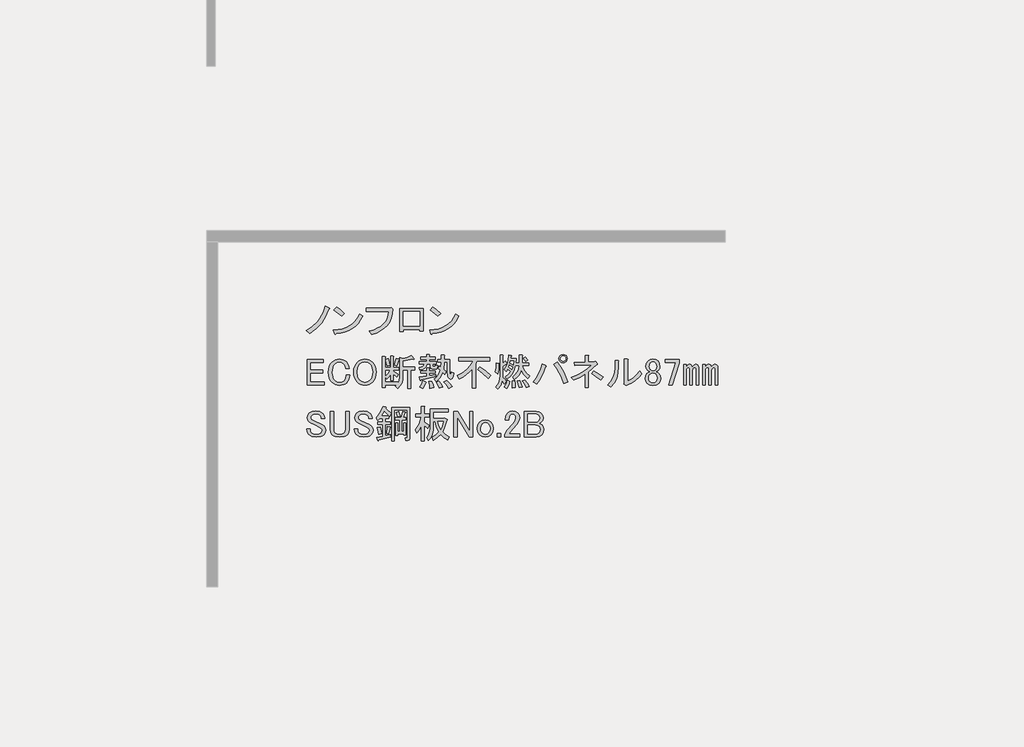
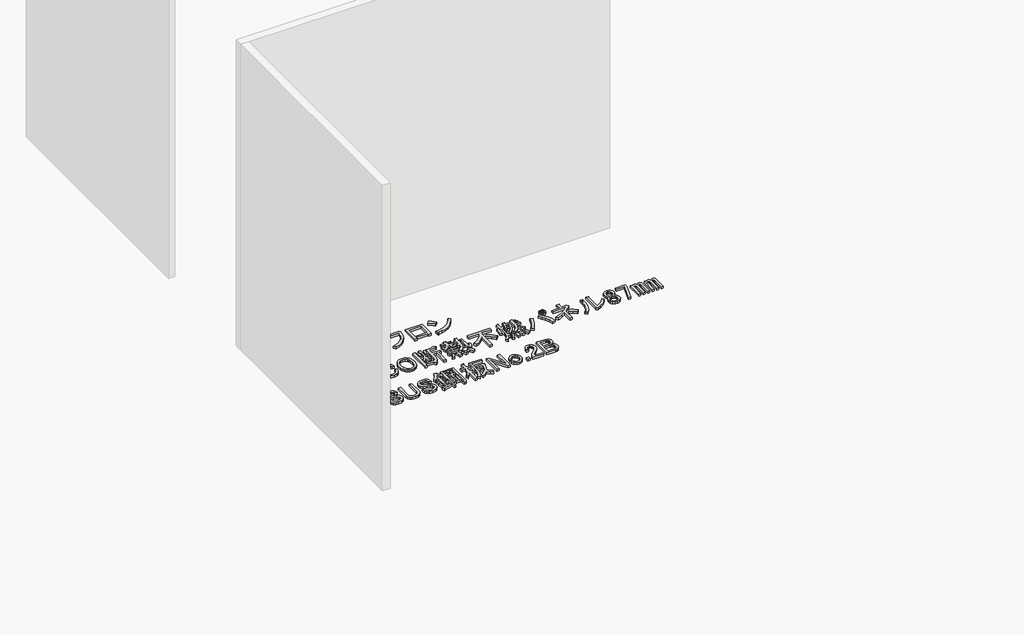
# One storey, part 59 of 117: 1 proxy.
"""IFC4 building model written with IfcOpenShell, lengths in millimetres."""

from ifc_helpers import new_model, si_unit, frame, origin, place, context, project, spatial, polyline, outline, extrude, element, save

model = new_model("IFC4")

# Units and contexts
model_context = context("Model", 3, world=origin())
ifc_project = project(units=[si_unit("LENGTHUNIT", "METRE", prefix="MILLI")], contexts=[model_context])

# Site, building, storey
site = spatial("IfcSite", under=ifc_project)
building = spatial("IfcBuilding", under=site)
storey = spatial("IfcBuildingStorey", under=building, Name="レベル 1", Elevation=500.0)

# Proxy
placement = place(None, origin())
element("IfcBuildingElementProxy", 1, Name="200㎜\u3000MS Pゴシック", ObjectType="200㎜\u3000MS Pゴシック", at=placement, inside=storey, context=model_context, shape_type="SweptSolid", body=[
    extrude(outline(polyline([(40940.1706985, -603.5496882), (40914.5952502, -663.3215225), (40886.146156, -709.2998566), (40844.4782907, -754.7034615), (40795.3389462, -792.060858), (40767.7519457, -770.2211493), (40815.4544673, -739.7605029), (40855.1107805, -701.2536481), (40872.4963381, -677.3305462), (40887.8703435, -649.2406577), (40901.2327969, -616.9839827), (40912.5836981, -580.5605212), (40943.6190736, -594.3540214), (40946.7800841, -598.9518548), (40940.1706985, -603.5496882)])), frame((0.0, 0.0, 500.0), z_axis=(0.0, 0.0, 1.0), x_axis=(1.0, 0.0, 0.0)), (0.0, 0.0, 1.0), 25.0),
    extrude(outline(polyline([(41039.8977052, -658.7236891), (40981.2753292, -611.5958967), (41000.8161212, -587.4572713), (41028.1157571, -607.2854279), (41061.7374138, -636.8839804), (41039.8977052, -658.7236891)])), frame((0.0, 0.0, 500.0), z_axis=(0.0, 0.0, 1.0), x_axis=(1.0, 0.0, 0.0)), (0.0, 0.0, 1.0), 25.0),
    extrude(outline(polyline([(41201.9713328, -658.7236891), (41185.447869, -688.465924), (41166.3381239, -714.4724192), (41144.6420975, -736.7431748), (41120.3597898, -755.2781907), (41093.4912008, -770.077467), (41064.0363306, -781.1410036), (41031.995179, -788.4688006), (40997.3677461, -792.060858), (40991.6204544, -800.1070664), (40985.8731626, -794.3597747), (40976.6774958, -764.4738575), (41012.5082679, -761.7977748), (41045.2857912, -755.4937141), (41075.0100658, -745.5616756), (41101.6810916, -732.0016591), (41125.2988687, -714.8136646), (41145.863397, -693.9976923), (41163.3746766, -669.553742), (41177.8327074, -641.4818138), (41201.9713328, -658.7236891)])), frame((0.0, 0.0, 500.0), z_axis=(0.0, 0.0, 1.0), x_axis=(1.0, 0.0, 0.0)), (0.0, 0.0, 1.0), 25.0),
    extrude(outline(polyline([(41252.7314136, -773.6695243), (41286.514713, -763.9889298), (41316.0234641, -751.6142922), (41341.257667, -736.5456116), (41362.2173217, -718.782888), (41378.902428, -698.3261214), (41391.3129862, -675.1753118), (41399.4489961, -649.3304591), (41403.3104577, -620.7915635), (41230.8917049, -620.7915635), (41230.8917049, -595.5034798), (41405.6093744, -595.5034798), (41421.7017914, -592.0551047), (41434.3458332, -603.5496882), (41430.825617, -640.0449909), (41422.5638851, -673.0919185), (41409.5606375, -702.6904711), (41391.8158742, -728.8406486), (41369.3295952, -751.542451), (41342.1018005, -770.7958784), (41310.1324901, -786.6009308), (41273.421664, -798.9576081), (41252.7314136, -773.6695243)])), frame((0.0, 0.0, 500.0), z_axis=(0.0, 0.0, 1.0), x_axis=(1.0, 0.0, 0.0)), (0.0, 0.0, 1.0), 25.0),
    extrude(outline(polyline([(41667.455987, -772.520066), (41641.0184449, -772.520066), (41641.0184449, -759.8760241), (41513.4285679, -759.8760241), (41513.4285679, -778.2673577), (41486.9910258, -778.2673577), (41486.9910258, -598.9518548), (41667.455987, -598.9518548), (41667.455987, -772.520066)]), holes=[polyline([(41513.4285679, -624.2399386), (41513.4285679, -734.5879404), (41641.0184449, -734.5879404), (41641.0184449, -624.2399386), (41513.4285679, -624.2399386)])]), frame((0.0, 0.0, 500.0), z_axis=(0.0, 0.0, 1.0), x_axis=(1.0, 0.0, 0.0)), (0.0, 0.0, 1.0), 25.0),
    extrude(outline(polyline([(41943.5099049, -658.7236891), (41926.9864411, -688.465924), (41907.876696, -714.4724192), (41886.1806696, -736.7431748), (41861.8983619, -755.2781907), (41835.0297729, -770.077467), (41805.5749026, -781.1410036), (41773.5337511, -788.4688006), (41738.9063182, -792.060858), (41733.1590264, -800.1070664), (41727.4117347, -794.3597747), (41718.2160679, -764.4738575), (41754.0468399, -761.7977748), (41786.8243633, -755.4937141), (41816.5486378, -745.5616756), (41843.2196637, -732.0016591), (41866.8374407, -714.8136646), (41887.4019691, -693.9976923), (41904.9132486, -669.553742), (41919.3712795, -641.4818138), (41943.5099049, -658.7236891)])), frame((0.0, 0.0, 500.0), z_axis=(0.0, 0.0, 1.0), x_axis=(1.0, 0.0, 0.0)), (0.0, 0.0, 1.0), 25.0),
    extrude(outline(polyline([(41781.4362772, -658.7236891), (41722.8139013, -611.5958967), (41742.3546933, -587.4572713), (41769.6543291, -607.2854279), (41803.2759859, -636.8839804), (41781.4362772, -658.7236891)])), frame((0.0, 0.0, 500.0), z_axis=(0.0, 0.0, 1.0), x_axis=(1.0, 0.0, 0.0)), (0.0, 0.0, 1.0), 25.0),
    extrude(outline(polyline([(40773.4992375, -992.0551047), (40899.9396562, -992.0551047), (40899.9396562, -1013.8948134), (40799.9367796, -1013.8948134), (40799.9367796, -1074.816106), (40893.0429061, -1074.816106), (40893.0429061, -1096.6558147), (40799.9367796, -1096.6558147), (40799.9367796, -1166.7727742), (40905.686948, -1166.7727742), (40905.686948, -1188.6124829), (40773.4992375, -1188.6124829), (40773.4992375, -992.0551047)])), frame((0.0, 0.0, 500.0), z_axis=(0.0, 0.0, 1.0), x_axis=(1.0, 0.0, 0.0)), (0.0, 0.0, 1.0), 25.0),
    extrude(outline(polyline([(40937.7798252, -1090.908523), (40939.5758538, -1066.985421), (40944.9639399, -1045.7922827), (40953.9440832, -1027.3291079), (40966.516284, -1011.5958967), (40991.5170031, -995.2161152), (41022.8397432, -989.756188), (41053.5877541, -994.641386), (41076.8642858, -1009.29698), (41092.6693381, -1032.8608762), (41098.7039944, -1062.1720642), (41071.116994, -1062.1720642), (41066.231796, -1040.9070847), (41056.1740354, -1025.3893969), (41040.9437123, -1015.0442717), (41022.8397432, -1011.5958967), (41003.2989512, -1015.6190009), (40986.0570759, -1027.6883136), (40977.0050914, -1039.3984206), (40970.5393882, -1053.8384911), (40965.3668256, -1090.908523), (40970.5393882, -1127.9785548), (40977.0050914, -1142.4186254), (40986.0570759, -1154.1287323), (41002.7242221, -1165.3359513), (41022.8397432, -1169.0716909), (41043.242629, -1165.9106804), (41058.4729521, -1156.427649), (41070.5422648, -1136.8868571), (41074.5653691, -1110.449315), (41102.1523695, -1110.449315), (41095.8303486, -1145.2204301), (41088.7899162, -1159.3731361), (41079.1632025, -1171.3706076), (41068.3151893, -1179.9197041), (41055.3119417, -1186.0262016), (41022.8397432, -1190.9113996), (40991.5170031, -1185.4514724), (40966.516284, -1169.0716909), (40953.9440832, -1153.4103209), (40944.9639399, -1135.1626695), (40939.5758538, -1114.3287369), (40937.7798252, -1090.908523)])), frame((0.0, 0.0, 500.0), z_axis=(0.0, 0.0, 1.0), x_axis=(1.0, 0.0, 0.0)), (0.0, 0.0, 1.0), 25.0),
    extrude(outline(polyline([(41133.1417667, -1089.7590646), (41134.8659542, -1066.9135799), (41140.0385168, -1046.6543764), (41148.6594544, -1028.9814543), (41160.7287671, -1013.8948134), (41173.4446501, -1003.3341648), (41187.4536738, -995.7908443), (41202.7558381, -991.2648521), (41219.3511431, -989.756188), (41235.946448, -991.2648521), (41251.2486123, -995.7908443), (41265.257636, -1003.3341648), (41277.973519, -1013.8948134), (41290.0428317, -1028.9814543), (41298.6637694, -1046.6543764), (41303.836332, -1066.9135799), (41305.5605195, -1089.7590646), (41303.836332, -1112.6045494), (41298.6637694, -1132.8637528), (41290.0428317, -1150.536675), (41277.973519, -1165.6233159), (41265.257636, -1176.1839645), (41251.2486123, -1183.7272849), (41235.946448, -1188.2532772), (41219.3511431, -1189.7619413), (41202.7558381, -1188.2532772), (41187.4536738, -1183.7272849), (41173.4446501, -1176.1839645), (41160.7287671, -1165.6233159), (41148.6594544, -1150.536675), (41140.0385168, -1132.8637528), (41134.8659542, -1112.6045494), (41133.1417667, -1089.7590646)]), holes=[polyline([(41219.3511431, -1011.5958967), (41198.6608927, -1015.9063655), (41180.2695591, -1028.837772), (41171.7204626, -1039.9731498), (41165.6139651, -1053.8384911), (41160.7287671, -1089.7590646), (41165.6139651, -1125.6796381), (41171.7204626, -1139.5449795), (41180.2695591, -1150.6803573), (41198.6608927, -1163.6117637), (41219.3511431, -1167.9222326), (41240.0413934, -1163.6117637), (41258.432727, -1150.6803573), (41266.9818235, -1139.5449795), (41273.088321, -1125.6796381), (41277.973519, -1089.7590646), (41273.088321, -1053.8384911), (41266.9818235, -1039.9731498), (41258.432727, -1028.837772), (41240.0413934, -1015.9063655), (41219.3511431, -1011.5958967)])]), frame((0.0, 0.0, 500.0), z_axis=(0.0, 0.0, 1.0), x_axis=(1.0, 0.0, 0.0)), (0.0, 0.0, 1.0), 25.0),
    extrude(outline(polyline([(41444.3691101, -1035.7345221), (41461.6109854, -982.8594379), (41482.3012357, -988.6067296), (41484.0254232, -991.7677401), (41480.002319, -994.3540214), (41462.7604437, -1042.6312722), (41444.3691101, -1035.7345221)])), frame((0.0, 0.0, 500.0), z_axis=(0.0, 0.0, 1.0), x_axis=(1.0, 0.0, 0.0)), (0.0, 0.0, 1.0), 25.0),
    extrude(outline(polyline([(41598.3965292, -987.4572713), (41596.6723417, -992.0551047), (41589.2008624, -989.756188), (41512.1871528, -1002.4002299), (41512.1871528, -1051.826939), (41604.143821, -1051.826939), (41604.143821, -1073.6666477), (41573.1084455, -1073.6666477), (41573.1084455, -1213.9005666), (41550.1192785, -1213.9005666), (41550.1192785, -1073.6666477), (41512.1871528, -1073.6666477), (41512.1871528, -1123.0933568), (41509.6008716, -1150.8958807), (41501.8420277, -1175.6810764), (41488.9106212, -1197.448944), (41470.8066522, -1216.1994833), (41453.5647769, -1196.6586914), (41463.9099021, -1187.4630245), (41374.2521506, -1187.4630245), (41374.2521506, -1209.3027332), (41351.2629836, -1209.3027332), (41351.2629836, -970.215396), (41373.1026922, -970.215396), (41377.9878902, -972.5143127), (41374.2521506, -977.1121461), (41374.2521506, -1052.9763974), (41416.7821096, -1052.9763974), (41416.7821096, -965.6175626), (41435.1734433, -965.6175626), (41440.0586413, -967.9164793), (41436.3229016, -972.5143127), (41436.3229016, -1052.9763974), (41480.002319, -1052.9763974), (41480.002319, -1071.367731), (41436.3229016, -1071.367731), (41436.3229016, -1080.5633978), (41476.5539439, -1107.0009399), (41462.7604437, -1128.8406486), (41436.3229016, -1102.4031065), (41436.3229016, -1155.2781907), (41416.7821096, -1155.2781907), (41416.7821096, -1107.0009399), (41403.5633386, -1126.8290965), (41389.1951092, -1142.6341488), (41376.5510673, -1124.2428152), (41398.390776, -1100.1041898), (41415.6326513, -1071.367731), (41374.2521506, -1071.367731), (41374.2521506, -1165.6233159), (41471.9561105, -1165.6233159), (41471.9561105, -1179.4168161), (41484.887517, -1155.2781907), (41489.1979858, -1121.9438985), (41489.1979858, -977.1121461), (41511.0376945, -982.8594379), (41547.2456326, -975.3879586), (41577.7062789, -962.1691875), (41598.3965292, -987.4572713)])), frame((0.0, 0.0, 500.0), z_axis=(0.0, 0.0, 1.0), x_axis=(1.0, 0.0, 0.0)), (0.0, 0.0, 1.0), 25.0),
    extrude(outline(polyline([(41390.3445675, -1043.7807305), (41377.7005257, -993.2045631), (41397.2413176, -986.3078129), (41405.0001615, -1010.4464383), (41409.8853595, -1036.8839804), (41390.3445675, -1043.7807305)])), frame((0.0, 0.0, 500.0), z_axis=(0.0, 0.0, 1.0), x_axis=(1.0, 0.0, 0.0)), (0.0, 0.0, 1.0), 25.0),
    extrude(outline(polyline([(41734.0326148, -1159.8760241), (41744.0903754, -1187.17566), (41748.9755734, -1209.3027332), (41720.2391146, -1215.050025), (41717.6528333, -1193.4976809), (41709.8939894, -1163.3243992), (41734.0326148, -1159.8760241)])), frame((0.0, 0.0, 500.0), z_axis=(0.0, 0.0, 1.0), x_axis=(1.0, 0.0, 0.0)), (0.0, 0.0, 1.0), 25.0),
    extrude(outline(polyline([(41790.356074, -1212.7511083), (41782.022501, -1188.0377537), (41768.5163654, -1166.7727742), (41789.2066157, -1158.7265657), (41806.1611264, -1180.2789098), (41817.9430745, -1203.5554415), (41790.356074, -1212.7511083)])), frame((0.0, 0.0, 500.0), z_axis=(0.0, 0.0, 1.0), x_axis=(1.0, 0.0, 0.0)), (0.0, 0.0, 1.0), 25.0),
    extrude(outline(polyline([(41689.2037391, -1164.4738575), (41692.6521141, -1169.3590555), (41686.9048224, -1172.520066), (41677.1344264, -1198.0955143), (41666.214572, -1217.3489417), (41643.225405, -1205.8543582), (41655.8694469, -1182.290462), (41666.214572, -1155.2781907), (41689.2037391, -1164.4738575)])), frame((0.0, 0.0, 500.0), z_axis=(0.0, 0.0, 1.0), x_axis=(1.0, 0.0, 0.0)), (0.0, 0.0, 1.0), 25.0),
    extrude(outline(polyline([(41721.3885729, -1027.6883136), (41696.1004892, -1027.6883136), (41691.5026558, -1045.1457123), (41681.1575306, -1058.4363245), (41665.0651137, -1067.5601502), (41643.225405, -1072.5171893), (41638.6275716, -1052.9763974), (41663.9156553, -1044.3554597), (41671.3871346, -1037.0276627), (41675.4102388, -1027.6883136), (41639.7770299, -1027.6883136), (41639.7770299, -1009.29698), (41693.8015725, -1009.29698), (41693.8015725, -992.0551047), (41650.1221551, -992.0551047), (41650.1221551, -973.6637711), (41693.8015725, -973.6637711), (41693.8015725, -955.2724374), (41715.6412812, -955.2724374), (41720.5264792, -957.5713541), (41716.7907395, -962.1691875), (41716.7907395, -973.6637711), (41759.3206985, -973.6637711), (41759.3206985, -992.0551047), (41716.7907395, -992.0551047), (41716.7907395, -1009.29698), (41769.6658237, -1009.29698), (41769.6658237, -1027.6883136), (41740.9293649, -1027.6883136), (41740.9293649, -1040.3323555), (41742.3661878, -1045.5049181), (41746.6766567, -1047.2291056), (41757.0217818, -1047.2291056), (41760.7575215, -1044.0680951), (41760.4701569, -1034.5850637), (41780.0109489, -1036.8839804), (41777.137303, -1058.4363245), (41771.8210581, -1063.8244106), (41763.9185319, -1065.6204392), (41739.7799066, -1065.6204392), (41725.9864063, -1060.7352412), (41721.3885729, -1046.0796472), (41721.3885729, -1027.6883136)])), frame((0.0, 0.0, 500.0), z_axis=(0.0, 0.0, 1.0), x_axis=(1.0, 0.0, 0.0)), (0.0, 0.0, 1.0), 25.0),
    extrude(outline(polyline([(41852.4268251, -1010.4464383), (41830.5871164, -1010.4464383), (41825.989283, -1067.9193559), (41845.5300749, -1086.3106896), (41835.1849498, -1108.1503983), (41819.0925328, -1092.0579813), (41799.8391054, -1129.7027424), (41769.6658237, -1162.1749408), (41752.4239484, -1141.4846905), (41767.5105893, -1129.5590601), (41780.585678, -1114.4724192), (41791.6492147, -1096.2247679), (41800.7011992, -1074.816106), (41783.4593239, -1059.8731475), (41791.5055324, -1042.6312722), (41805.2990326, -1052.9763974), (41807.5979493, -1010.4464383), (41780.0109489, -1010.4464383), (41780.0109489, -992.0551047), (41807.5979493, -992.0551047), (41807.5979493, -957.5713541), (41829.437658, -957.5713541), (41834.322856, -959.8702708), (41830.5871164, -964.4681043), (41830.5871164, -992.0551047), (41871.967617, -992.0551047), (41871.967617, -1088.6096063), (41875.4159921, -1112.7482317), (41878.6488437, -1114.7597838), (41881.4506484, -1111.5987733), (41885.7611173, -1089.7590646), (41905.3019092, -1096.6558147), (41900.775917, -1123.4525626), (41892.945232, -1139.4731384), (41881.8098542, -1144.7175421), (41867.3697836, -1139.1857738), (41860.8322393, -1131.8579768), (41856.1625647, -1120.219711), (41852.4268251, -1084.0117729), (41852.4268251, -1010.4464383)])), frame((0.0, 0.0, 500.0), z_axis=(0.0, 0.0, 1.0), x_axis=(1.0, 0.0, 0.0)), (0.0, 0.0, 1.0), 25.0),
    extrude(outline(polyline([(41651.2716134, -1149.5308989), (41649.2600613, -1154.4160969), (41645.5243217, -1152.979274), (41639.7770299, -1128.8406486), (41694.9510308, -1120.7944401), (41694.9510308, -1097.8052731), (41651.2716134, -1097.8052731), (41651.2716134, -1079.4139395), (41694.9510308, -1079.4139395), (41694.9510308, -1056.4247724), (41713.3423645, -1056.4247724), (41718.2275625, -1058.7236891), (41714.4918228, -1063.3215225), (41714.4918228, -1079.4139395), (41759.3206985, -1079.4139395), (41759.3206985, -1097.8052731), (41714.4918228, -1097.8052731), (41714.4918228, -1117.3460651), (41765.0679903, -1108.1503983), (41765.0679903, -1124.2428152), (41651.2716134, -1149.5308989)])), frame((0.0, 0.0, 500.0), z_axis=(0.0, 0.0, 1.0), x_axis=(1.0, 0.0, 0.0)), (0.0, 0.0, 1.0), 25.0),
    extrude(outline(polyline([(41848.97845, -1154.1287323), (41873.6918046, -1175.3937119), (41892.6578674, -1200.1070664), (41866.2203253, -1215.050025), (41846.9668979, -1185.4514724), (41828.2881997, -1165.6233159), (41848.97845, -1154.1287323)])), frame((0.0, 0.0, 500.0), z_axis=(0.0, 0.0, 1.0), x_axis=(1.0, 0.0, 0.0)), (0.0, 0.0, 1.0), 25.0),
    extrude(outline(polyline([(42167.3784135, -1138.0363154), (42128.2968295, -1099.8168252), (42086.9163289, -1070.2182726), (42103.0087458, -1049.5280223), (42146.6881632, -1077.6897519), (42188.0686638, -1116.1966067), (42167.3784135, -1138.0363154)])), frame((0.0, 0.0, 500.0), z_axis=(0.0, 0.0, 1.0), x_axis=(1.0, 0.0, 0.0)), (0.0, 0.0, 1.0), 25.0),
    extrude(outline(polyline([(41940.9351182, -977.1121461), (42182.3213721, -977.1121461), (42182.3213721, -1002.4002299), (42082.3184955, -1002.4002299), (42071.9733703, -1026.5388553), (42071.9733703, -1212.7511083), (42045.5358282, -1212.7511083), (42045.5358282, -1065.6204392), (42024.7018956, -1088.8969709), (42001.2816816, -1109.2998566), (41975.2751864, -1126.8290965), (41946.6824099, -1141.4846905), (41930.589993, -1115.0471484), (41970.174465, -1094.6442626), (42003.8679629, -1069.0688143), (42031.6704868, -1038.3208034), (42053.5820367, -1002.4002299), (41940.9351182, -1002.4002299), (41940.9351182, -977.1121461)])), frame((0.0, 0.0, 500.0), z_axis=(0.0, 0.0, 1.0), x_axis=(1.0, 0.0, 0.0)), (0.0, 0.0, 1.0), 25.0),
    extrude(outline(polyline([(42354.7401249, -1211.6016499), (42355.3148541, -1184.5893787), (42352.4412082, -1156.427649), (42371.9820002, -1155.2781907), (42378.3040211, -1181.4283682), (42378.8787503, -1209.3027332), (42354.7401249, -1211.6016499)])), frame((0.0, 0.0, 500.0), z_axis=(0.0, 0.0, 1.0), x_axis=(1.0, 0.0, 0.0)), (0.0, 0.0, 1.0), 25.0),
    extrude(outline(polyline([(42335.1993329, -1159.8760241), (42326.5783953, -1190.3366704), (42312.2101659, -1217.3489417), (42292.6693739, -1204.7048998), (42306.7502387, -1179.9915453), (42316.8079993, -1151.8298156), (42335.1993329, -1159.8760241)])), frame((0.0, 0.0, 500.0), z_axis=(0.0, 0.0, 1.0), x_axis=(1.0, 0.0, 0.0)), (0.0, 0.0, 1.0), 25.0),
    extrude(outline(polyline([(42250.1394149, -1021.9410219), (42254.7372483, -1024.2399386), (42250.1394149, -1028.837772), (42248.9899565, -1068.4940851), (42243.2426647, -1102.4031065), (42224.8513311, -1089.7590646), (42230.5986229, -1055.2753141), (42231.7480812, -1018.4926468), (42250.1394149, -1021.9410219)])), frame((0.0, 0.0, 500.0), z_axis=(0.0, 0.0, 1.0), x_axis=(1.0, 0.0, 0.0)), (0.0, 0.0, 1.0), 25.0),
    extrude(outline(polyline([(42301.8650407, -1003.5496882), (42311.0607075, -1020.7915635), (42312.4975305, -1026.8262199), (42307.6123325, -1026.5388553), (42281.1747904, -1047.2291056), (42281.1747904, -1131.1395653), (42294.9682906, -1143.4962426), (42306.4628741, -1159.8760241), (42293.8188322, -1180.5662744), (42275.4274986, -1155.2781907), (42263.6455505, -1191.1987642), (42242.0932064, -1220.7973168), (42227.1502478, -1202.4059831), (42242.2368887, -1183.6554438), (42253.0130607, -1163.0370346), (42259.478764, -1140.5507556), (42261.6339984, -1116.1966067), (42261.6339984, -958.7208125), (42280.025332, -958.7208125), (42284.91053, -961.0197292), (42281.1747904, -965.6175626), (42281.1747904, -1024.2399386), (42301.8650407, -1003.5496882)])), frame((0.0, 0.0, 500.0), z_axis=(0.0, 0.0, 1.0), x_axis=(1.0, 0.0, 0.0)), (0.0, 0.0, 1.0), 25.0),
    extrude(outline(polyline([(42452.4440848, -972.5143127), (42474.2837935, -996.6529381), (42457.0419182, -1008.1475216), (42450.4325327, -996.6529381), (42437.5011262, -982.8594379), (42452.4440848, -972.5143127)])), frame((0.0, 0.0, 500.0), z_axis=(0.0, 0.0, 1.0), x_axis=(1.0, 0.0, 0.0)), (0.0, 0.0, 1.0), 25.0),
    extrude(outline(polyline([(42462.78921, -1209.3027332), (42449.5704389, -1181.1410036), (42432.9032928, -1156.427649), (42451.2946265, -1148.3814406), (42470.2606893, -1171.3706076), (42485.778377, -1198.9576081), (42462.78921, -1209.3027332)])), frame((0.0, 0.0, 500.0), z_axis=(0.0, 0.0, 1.0), x_axis=(1.0, 0.0, 0.0)), (0.0, 0.0, 1.0), 25.0),
    extrude(outline(polyline([(42413.3625008, -1154.1287323), (42431.7538345, -1203.5554415), (42407.6152091, -1208.1532749), (42393.8217089, -1157.5771074), (42413.3625008, -1154.1287323)])), frame((0.0, 0.0, 500.0), z_axis=(0.0, 0.0, 1.0), x_axis=(1.0, 0.0, 0.0)), (0.0, 0.0, 1.0), 25.0),
    extrude(outline(polyline([(42474.2837935, -1139.1857738), (42443.5357826, -1108.7251274), (42422.5581677, -1074.816106), (42414.1527535, -1096.9431793), (42402.7300111, -1116.1966067), (42388.2899405, -1132.5763882), (42370.8325418, -1146.0825239), (42357.0390416, -1127.6911902), (42377.8729742, -1108.7969686), (42393.2469797, -1087.7475125), (42403.161058, -1064.542822), (42407.6152091, -1039.1828971), (42378.8787503, -1039.1828971), (42370.904383, -1069.7872258), (42357.3264062, -1097.2305439), (42338.1448199, -1121.5128516), (42313.3596242, -1142.6341488), (42300.7155823, -1126.5417319), (42326.5783953, -1104.9893878), (42342.096083, -1084.0117729), (42320.2563743, -1064.4709809), (42306.4628741, -1085.1612312), (42292.6693739, -1070.2182726), (42305.0978923, -1051.1803687), (42314.7964472, -1026.2514907), (42321.7650384, -995.4316386), (42326.0036661, -958.7208125), (42346.6939164, -961.0197292), (42350.1422915, -963.6060105), (42344.3949997, -966.767021), (42342.096083, -985.1583546), (42385.7755004, -985.1583546), (42382.3271253, -1020.7915635), (42407.6152091, -1020.7915635), (42407.6152091, -958.7208125), (42429.4549178, -958.7208125), (42434.3401158, -961.0197292), (42430.6043761, -965.6175626), (42430.6043761, -1020.7915635), (42480.0310853, -1020.7915635), (42480.0310853, -1039.1828971), (42430.6043761, -1039.1828971), (42437.1419205, -1060.9507647), (42448.7083452, -1081.4254916), (42465.3036501, -1100.6070778), (42486.9278354, -1118.4955234), (42474.2837935, -1139.1857738)]), holes=[polyline([(42350.1422915, -1069.0688143), (42357.0390416, -1049.5280223), (42331.7509579, -1033.4356054), (42326.0036661, -1050.6774807), (42350.1422915, -1069.0688143)]), polyline([(42339.7971663, -1003.5496882), (42336.3487913, -1019.6421052), (42361.636875, -1033.4356054), (42366.2347084, -1003.5496882), (42339.7971663, -1003.5496882)])]), frame((0.0, 0.0, 500.0), z_axis=(0.0, 0.0, 1.0), x_axis=(1.0, 0.0, 0.0)), (0.0, 0.0, 1.0), 25.0),
    extrude(outline(polyline([(42699.5776305, -1012.745355), (42726.230696, -1049.4561812), (42748.7169751, -1087.1727833), (42767.0364675, -1125.8951616), (42781.1891735, -1165.6233159), (42750.153798, -1175.968441), (42734.7079514, -1132.8637528), (42717.1068704, -1094.356898), (42697.350555, -1060.4478766), (42675.4390051, -1031.1366887), (42699.5776305, -1012.745355)])), frame((0.0, 0.0, 500.0), z_axis=(0.0, 0.0, 1.0), x_axis=(1.0, 0.0, 0.0)), (0.0, 0.0, 1.0), 25.0),
    extrude(outline(polyline([(42612.2187958, -1039.1828971), (42616.2419, -1044.6428243), (42609.919879, -1049.5280223), (42597.9942486, -1084.9457078), (42582.9076078, -1118.782888), (42564.6599564, -1151.039563), (42543.2512946, -1181.7157328), (42516.8137525, -1164.4738575), (42540.018443, -1133.0074351), (42559.056347, -1099.5294606), (42573.9274644, -1064.039934), (42584.6317953, -1026.5388553), (42612.2187958, -1039.1828971)])), frame((0.0, 0.0, 500.0), z_axis=(0.0, 0.0, 1.0), x_axis=(1.0, 0.0, 0.0)), (0.0, 0.0, 1.0), 25.0),
    extrude(outline(polyline([(42745.5559646, -1018.4926468), (42732.9119227, -1016.1937301), (42722.5667975, -1009.29698), (42715.6700474, -998.9518548), (42713.3711307, -986.3078129), (42715.6700474, -973.6637711), (42722.5667975, -963.3186459), (42732.9119227, -956.4218958), (42745.5559646, -954.1229791), (42758.2000065, -956.4218958), (42768.5451316, -963.3186459), (42775.4418817, -973.6637711), (42777.7407984, -986.3078129), (42775.4418817, -998.9518548), (42768.5451316, -1009.29698), (42758.2000065, -1016.1937301), (42745.5559646, -1018.4926468)]), holes=[polyline([(42745.5559646, -1006.9980633), (42753.8895376, -1005.5612403), (42760.4989232, -1001.2507715), (42764.809392, -994.641386), (42766.2462149, -986.3078129), (42764.809392, -977.9742399), (42760.4989232, -971.3648544), (42753.8895376, -967.0543855), (42745.5559646, -965.6175626), (42737.2223915, -967.0543855), (42730.613006, -971.3648544), (42726.3025372, -977.9742399), (42724.8657143, -986.3078129), (42726.3025372, -994.641386), (42730.613006, -1001.2507715), (42737.2223915, -1005.5612403), (42745.5559646, -1006.9980633)])]), frame((0.0, 0.0, 500.0), z_axis=(0.0, 0.0, 1.0), x_axis=(1.0, 0.0, 0.0)), (0.0, 0.0, 1.0), 25.0),
    extrude(outline(polyline([(42989.2411352, -1008.1475216), (42996.1378853, -1005.8486049), (43008.7819272, -1023.0904802), (43009.9313856, -1029.1251366), (43004.1840938, -1031.1366887), (42940.9638844, -1087.4601479), (42940.9638844, -1208.1532749), (42914.5263423, -1208.1532749), (42914.5263423, -1105.8514816), (42874.2953, -1129.9901069), (42829.4664243, -1151.8298156), (42809.9256323, -1131.1395653), (42855.4729195, -1111.6706145), (42896.7097379, -1088.8969709), (42933.6360874, -1062.8186345), (42966.2519682, -1033.4356054), (42836.3631744, -1039.1828971), (42832.9147993, -1013.8948134), (42914.5263423, -1011.5958967), (42914.5263423, -959.8702708), (42937.5155094, -959.8702708), (42943.5501657, -963.3186459), (42940.9638844, -969.0659377), (42940.9638844, -1010.4464383), (42989.2411352, -1008.1475216)])), frame((0.0, 0.0, 500.0), z_axis=(0.0, 0.0, 1.0), x_axis=(1.0, 0.0, 0.0)), (0.0, 0.0, 1.0), 25.0),
    extrude(outline(polyline([(43035.2194693, -1151.8298156), (42998.1494375, -1122.5186277), (42965.1025098, -1101.2536481), (42982.3443851, -1079.4139395), (43021.1386045, -1102.6904711), (43054.7602613, -1128.8406486), (43035.2194693, -1151.8298156)])), frame((0.0, 0.0, 500.0), z_axis=(0.0, 0.0, 1.0), x_axis=(1.0, 0.0, 0.0)), (0.0, 0.0, 1.0), 25.0),
    extrude(outline(polyline([(43242.2139293, -1158.7265657), (43266.9991251, -1146.5135708), (43290.7785447, -1129.4153778), (43313.5521883, -1107.4319868), (43335.3200559, -1080.5633978), (43351.4124728, -1102.4031065), (43328.1359412, -1130.2056304), (43301.9857636, -1153.8413678), (43272.9619403, -1173.3103186), (43241.064471, -1188.6124829), (43231.8688042, -1193.2103163), (43213.4774705, -1179.4168161), (43215.7763872, -1173.6695243), (43215.7763872, -988.6067296), (43239.9150126, -988.6067296), (43245.6623044, -992.0551047), (43242.2139293, -997.8023965), (43242.2139293, -1158.7265657)])), frame((0.0, 0.0, 500.0), z_axis=(0.0, 0.0, 1.0), x_axis=(1.0, 0.0, 0.0)), (0.0, 0.0, 1.0), 25.0),
    extrude(outline(polyline([(43088.1865102, -1189.7619413), (43113.3309116, -1160.5225944), (43131.2911984, -1127.9785548), (43142.0673704, -1092.1298225), (43145.6594278, -1052.9763974), (43145.6594278, -1001.2507715), (43169.7980532, -1001.2507715), (43175.5453449, -1004.6991466), (43172.0969699, -1010.4464383), (43172.0969699, -1051.826939), (43168.2893891, -1097.5897496), (43156.8666467, -1138.32368), (43137.8287427, -1174.0287301), (43111.1756772, -1204.7048998), (43088.1865102, -1189.7619413)])), frame((0.0, 0.0, 500.0), z_axis=(0.0, 0.0, 1.0), x_axis=(1.0, 0.0, 0.0)), (0.0, 0.0, 1.0), 25.0),
    extrude(outline(polyline([(43383.5973066, -1044.9301889), (43387.6204109, -1021.9410219), (43399.6897236, -1003.5496882), (43416.0695051, -993.2045631), (43437.6218492, -989.756188), (43459.4615579, -993.4919276), (43476.7034332, -1004.6991466), (43487.9106521, -1022.2283864), (43491.6463917, -1044.9301889), (43488.1980167, -1063.0341579), (43477.8528915, -1078.2644811), (43464.0593913, -1086.3106896), (43464.0593913, -1088.6096063), (43474.1171519, -1092.6327105), (43483.6001833, -1100.1041898), (43493.9453084, -1116.1966067), (43497.3936835, -1136.8868571), (43493.3705793, -1158.1518366), (43481.3012666, -1175.968441), (43462.9099329, -1187.17566), (43437.6218492, -1190.9113996), (43412.3337654, -1187.17566), (43393.9424318, -1175.968441), (43381.8731191, -1158.1518366), (43377.8500149, -1136.8868571), (43381.2983899, -1116.1966067), (43391.6435151, -1100.1041898), (43401.1265465, -1092.6327105), (43411.1843071, -1088.6096063), (43411.1843071, -1086.3106896), (43396.2413485, -1075.9655644), (43386.7583171, -1061.8846996), (43383.5973066, -1044.9301889)]), holes=[polyline([(43437.6218492, -1010.4464383), (43426.9893594, -1012.4579905), (43418.0810572, -1018.4926468), (43411.1843071, -1029.6998657), (43408.8853904, -1044.9301889), (43411.1843071, -1059.2984183), (43418.0810572, -1070.2182726), (43426.7019948, -1076.252929), (43436.4723908, -1078.2644811), (43448.5417035, -1076.5402936), (43457.1626412, -1071.367731), (43464.0593913, -1060.1605121), (43466.358308, -1044.9301889), (43464.0593913, -1029.6998657), (43457.1626412, -1018.4926468), (43448.2543389, -1012.4579905), (43437.6218492, -1010.4464383)]), polyline([(43437.6218492, -1097.8052731), (43424.1157136, -1100.1041898), (43413.4832238, -1107.0009399), (43406.5864737, -1118.2081588), (43404.287557, -1133.438482), (43406.8738383, -1148.9561698), (43414.6326821, -1161.0254825), (43424.9778073, -1167.9222326), (43437.6218492, -1170.2211493), (43450.2658911, -1167.9222326), (43460.6110162, -1161.0254825), (43468.3698601, -1148.9561698), (43470.9561414, -1133.438482), (43468.3698601, -1117.9207942), (43460.6110162, -1105.8514816), (43450.8406202, -1099.8168252), (43437.6218492, -1097.8052731)])]), frame((0.0, 0.0, 500.0), z_axis=(0.0, 0.0, 1.0), x_axis=(1.0, 0.0, 0.0)), (0.0, 0.0, 1.0), 25.0),
    extrude(outline(polyline([(43530.7279757, -992.0551047), (43639.9265191, -992.0551047), (43639.9265191, -1017.3431884), (43584.7525182, -1188.6124829), (43559.4644345, -1188.6124829), (43614.6384354, -1013.8948134), (43530.7279757, -1013.8948134), (43530.7279757, -992.0551047)])), frame((0.0, 0.0, 500.0), z_axis=(0.0, 0.0, 1.0), x_axis=(1.0, 0.0, 0.0)), (0.0, 0.0, 1.0), 25.0),
    extrude(outline(polyline([(43692.8016033, -1189.7619413), (43673.2608114, -1189.7619413), (43673.2608114, -1032.286147), (43692.8016033, -1032.286147), (43692.8016033, -1049.5280223), (43704.870916, -1034.0103346), (43718.0896871, -1028.837772), (43727.2853539, -1030.2745949), (43734.182104, -1034.5850637), (43741.0788541, -1048.378564), (43754.0102606, -1033.72297), (43767.5163962, -1028.837772), (43775.8499693, -1030.2745949), (43782.4593548, -1034.5850637), (43787.6319174, -1043.2060014), (43789.3561049, -1055.2753141), (43789.3561049, -1189.7619413), (43769.8153129, -1189.7619413), (43769.8153129, -1065.6204392), (43767.2290316, -1056.1374078), (43759.4701878, -1052.9763974), (43749.1250626, -1057.5742308), (43743.0904062, -1066.1951684), (43741.0788541, -1075.9655644), (43741.0788541, -1189.7619413), (43721.5380621, -1189.7619413), (43721.5380621, -1065.6204392), (43718.9517808, -1056.1374078), (43711.192937, -1052.9763974), (43700.8478118, -1057.5742308), (43694.8131555, -1066.1951684), (43692.8016033, -1075.9655644), (43692.8016033, -1189.7619413)])), frame((0.0, 0.0, 500.0), z_axis=(0.0, 0.0, 1.0), x_axis=(1.0, 0.0, 0.0)), (0.0, 0.0, 1.0), 25.0),
    extrude(outline(polyline([(43914.6470653, -1028.837772), (43922.9806383, -1030.2745949), (43929.5900239, -1034.5850637), (43934.7625864, -1043.2060014), (43936.486774, -1055.2753141), (43936.486774, -1189.7619413), (43916.945982, -1189.7619413), (43916.945982, -1065.6204392), (43914.3597007, -1056.1374078), (43906.6008568, -1052.9763974), (43896.2557317, -1057.5742308), (43890.2210753, -1066.1951684), (43888.2095232, -1075.9655644), (43888.2095232, -1189.7619413), (43868.6687312, -1189.7619413), (43868.6687312, -1065.6204392), (43866.0824499, -1056.1374078), (43858.323606, -1052.9763974), (43847.9784809, -1057.5742308), (43841.9438245, -1066.1951684), (43839.9322724, -1075.9655644), (43839.9322724, -1189.7619413), (43820.3914804, -1189.7619413), (43820.3914804, -1032.286147), (43839.9322724, -1032.286147), (43839.9322724, -1049.5280223), (43852.0015851, -1034.0103346), (43865.2203561, -1028.837772), (43874.416023, -1030.2745949), (43881.3127731, -1034.5850637), (43888.2095232, -1048.378564), (43901.1409296, -1033.72297), (43914.6470653, -1028.837772)])), frame((0.0, 0.0, 500.0), z_axis=(0.0, 0.0, 1.0), x_axis=(1.0, 0.0, 0.0)), (0.0, 0.0, 1.0), 25.0),
    extrude(outline(polyline([(40775.7981542, -1443.7807305), (40779.8212584, -1423.3778448), (40791.8905711, -1405.8486049), (40812.2934569, -1393.7792922), (40841.3172803, -1389.756188), (40872.6400204, -1394.3540214), (40895.3418228, -1408.1475216), (40907.4111355, -1425.6767615), (40911.4342397, -1446.0796472), (40884.9966976, -1446.0796472), (40882.6977809, -1433.4356054), (40875.8010308, -1423.0904802), (40862.5822598, -1415.3316363), (40843.616197, -1412.745355), (40823.2133112, -1415.0442717), (40810.2819048, -1421.9410219), (40804.2472484, -1430.5619595), (40802.2356963, -1440.3323555), (40806.8335297, -1455.2753141), (40827.52378, -1466.7698976), (40887.2956143, -1493.2074397), (40904.5374896, -1504.7020232), (40914.020521, -1518.4955234), (40917.1815315, -1534.5879404), (40913.1584273, -1555.8529199), (40901.0891146, -1573.6695243), (40891.1031951, -1581.2128448), (40878.3873121, -1586.6009308), (40844.7656553, -1590.9113996), (40811.1439985, -1585.738837), (40797.5660217, -1579.2731338), (40786.1432794, -1570.2211493), (40774.9360604, -1551.8298156), (40771.2003208, -1526.5417319), (40797.6378629, -1526.5417319), (40799.9367796, -1544.3583363), (40806.8335297, -1556.427649), (40822.9259466, -1565.9106804), (40845.9151137, -1569.0716909), (40866.8927286, -1566.198045), (40881.5483226, -1557.5771074), (40888.4450727, -1548.3814406), (40890.7439894, -1539.1857738), (40889.0198019, -1529.7027424), (40883.8472393, -1521.9438985), (40865.4559057, -1510.449315), (40835.5699885, -1496.6558147), (40802.2356963, -1481.7128562), (40786.1432794, -1471.367731), (40778.3844355, -1459.2984183), (40775.7981542, -1443.7807305)])), frame((0.0, 0.0, 500.0), z_axis=(0.0, 0.0, 1.0), x_axis=(1.0, 0.0, 0.0)), (0.0, 0.0, 1.0), 25.0),
    extrude(outline(polyline([(40951.2054987, -1392.0551047), (40977.6430408, -1392.0551047), (40977.6430408, -1529.9901069), (40980.2293221, -1544.6457009), (40987.988166, -1556.427649), (41003.5058537, -1565.9106804), (41024.7708332, -1569.0716909), (41046.0358128, -1565.9106804), (41061.5535005, -1556.427649), (41069.3123444, -1544.6457009), (41071.8986257, -1529.9901069), (41071.8986257, -1392.0551047), (41098.3361678, -1392.0551047), (41098.3361678, -1531.1395653), (41094.3130635, -1554.1287323), (41082.2437508, -1572.520066), (41071.7549434, -1580.5662744), (41058.6798546, -1586.3135662), (41024.7708332, -1590.9113996), (40990.8618119, -1586.3135662), (40977.7867231, -1580.5662744), (40967.2979156, -1572.520066), (40955.2286029, -1554.1287323), (40951.2054987, -1531.1395653), (40951.2054987, -1392.0551047)])), frame((0.0, 0.0, 500.0), z_axis=(0.0, 0.0, 1.0), x_axis=(1.0, 0.0, 0.0)), (0.0, 0.0, 1.0), 25.0),
    extrude(outline(polyline([(41140.6822135, -1443.7807305), (41144.7053177, -1423.3778448), (41156.7746304, -1405.8486049), (41177.1775161, -1393.7792922), (41206.2013395, -1389.756188), (41237.5240796, -1394.3540214), (41260.2258821, -1408.1475216), (41272.2951948, -1425.6767615), (41276.318299, -1446.0796472), (41249.8807569, -1446.0796472), (41247.5818402, -1433.4356054), (41240.6850901, -1423.0904802), (41227.466319, -1415.3316363), (41208.5002562, -1412.745355), (41188.0973705, -1415.0442717), (41175.165964, -1421.9410219), (41169.1313077, -1430.5619595), (41167.1197556, -1440.3323555), (41171.717589, -1455.2753141), (41192.4078393, -1466.7698976), (41252.1796736, -1493.2074397), (41269.4215489, -1504.7020232), (41278.9045803, -1518.4955234), (41282.0655908, -1534.5879404), (41278.0424865, -1555.8529199), (41265.9731738, -1573.6695243), (41255.9872544, -1581.2128448), (41243.2713714, -1586.6009308), (41209.6497146, -1590.9113996), (41176.0280578, -1585.738837), (41162.450081, -1579.2731338), (41151.0273386, -1570.2211493), (41139.8201197, -1551.8298156), (41136.0843801, -1526.5417319), (41162.5219222, -1526.5417319), (41164.8208389, -1544.3583363), (41171.717589, -1556.427649), (41187.8100059, -1565.9106804), (41210.7991729, -1569.0716909), (41231.7767879, -1566.198045), (41246.4323819, -1557.5771074), (41253.329132, -1548.3814406), (41255.6280487, -1539.1857738), (41253.9038611, -1529.7027424), (41248.7312986, -1521.9438985), (41230.3399649, -1510.449315), (41200.4540478, -1496.6558147), (41167.1197556, -1481.7128562), (41151.0273386, -1471.367731), (41143.2684948, -1459.2984183), (41140.6822135, -1443.7807305)])), frame((0.0, 0.0, 500.0), z_axis=(0.0, 0.0, 1.0), x_axis=(1.0, 0.0, 0.0)), (0.0, 0.0, 1.0), 25.0),
    extrude(outline(polyline([(41410.3451429, -1431.1366887), (41368.9646422, -1387.4572713), (41347.1249335, -1426.5388553), (41402.2989344, -1426.5388553), (41402.2989344, -1444.9301889), (41375.8613923, -1444.9301889), (41375.8613923, -1473.6666477), (41413.7935179, -1473.6666477), (41413.7935179, -1492.0579813), (41375.8613923, -1492.0579813), (41375.8613923, -1579.4168161), (41414.9429763, -1569.0716909), (41417.241893, -1588.6124829), (41325.2852248, -1613.9005666), (41322.9863081, -1619.6478584), (41318.3884747, -1616.1994833), (41311.4917246, -1593.2103163), (41356.3206003, -1584.0146495), (41356.3206003, -1492.0579813), (41318.3884747, -1492.0579813), (41318.3884747, -1473.6666477), (41356.3206003, -1473.6666477), (41356.3206003, -1444.9301889), (41334.4808916, -1444.9301889), (41319.537933, -1463.3215225), (41306.8938912, -1442.6312722), (41335.0556208, -1404.9865112), (41359.7689754, -1354.1229791), (41381.6086841, -1359.8702708), (41385.0570591, -1363.6060105), (41379.3097674, -1365.6175626), (41378.160309, -1369.0659377), (41422.9891847, -1406.9980633), (41410.3451429, -1431.1366887)])), frame((0.0, 0.0, 500.0), z_axis=(0.0, 0.0, 1.0), x_axis=(1.0, 0.0, 0.0)), (0.0, 0.0, 1.0), 25.0),
    extrude(outline(polyline([(41478.1631856, -1394.3540214), (41485.3473003, -1409.5843446), (41490.8072275, -1429.9872303), (41473.5653522, -1435.7345221), (41462.0707687, -1398.9518548), (41478.1631856, -1394.3540214)])), frame((0.0, 0.0, 500.0), z_axis=(0.0, 0.0, 1.0), x_axis=(1.0, 0.0, 0.0)), (0.0, 0.0, 1.0), 25.0),
    extrude(outline(polyline([(41531.0382698, -1395.5034798), (41533.6245511, -1398.9518548), (41527.5898948, -1402.4002299), (41514.9458529, -1440.3323555), (41535.6361032, -1440.3323555), (41535.6361032, -1458.7236891), (41504.6007277, -1458.7236891), (41504.6007277, -1547.2319822), (41519.5436863, -1547.2319822), (41519.5436863, -1479.4139395), (41535.6361032, -1479.4139395), (41535.6361032, -1573.6695243), (41519.5436863, -1573.6695243), (41519.5436863, -1565.6233159), (41473.5653522, -1565.6233159), (41473.5653522, -1578.2673577), (41457.4729353, -1578.2673577), (41457.4729353, -1481.7128562), (41473.5653522, -1481.7128562), (41473.5653522, -1547.2319822), (41488.5083108, -1547.2319822), (41488.5083108, -1458.7236891), (41452.8751019, -1458.7236891), (41452.8751019, -1440.3323555), (41498.853436, -1440.3323555), (41509.1985611, -1390.9056463), (41531.0382698, -1395.5034798)])), frame((0.0, 0.0, 500.0), z_axis=(0.0, 0.0, 1.0), x_axis=(1.0, 0.0, 0.0)), (0.0, 0.0, 1.0), 25.0),
    extrude(outline(polyline([(41425.2881014, -1362.1691875), (41565.5220204, -1362.1691875), (41565.5220204, -1602.4059831), (41561.7862807, -1613.6132021), (41550.5790618, -1617.3489417), (41534.4866449, -1617.3489417), (41529.8888115, -1595.509233), (41541.383395, -1595.509233), (41544.83177, -1594.3597747), (41545.9812284, -1590.9113996), (41545.9812284, -1380.5605212), (41444.8288934, -1380.5605212), (41444.8288934, -1619.6478584), (41425.2881014, -1619.6478584), (41425.2881014, -1362.1691875)])), frame((0.0, 0.0, 500.0), z_axis=(0.0, 0.0, 1.0), x_axis=(1.0, 0.0, 0.0)), (0.0, 0.0, 1.0), 25.0),
    extrude(outline(polyline([(41413.7935179, -1510.449315), (41416.3797992, -1513.6103254), (41412.6440596, -1516.1966067), (41404.5978511, -1563.3243992), (41386.2065175, -1561.0254825), (41391.9538092, -1507.0009399), (41413.7935179, -1510.449315)])), frame((0.0, 0.0, 500.0), z_axis=(0.0, 0.0, 1.0), x_axis=(1.0, 0.0, 0.0)), (0.0, 0.0, 1.0), 25.0),
    extrude(outline(polyline([(41336.7798083, -1511.5987733), (41348.2743918, -1563.3243992), (41327.5841415, -1569.0716909), (41316.089558, -1517.3460651), (41336.7798083, -1511.5987733)])), frame((0.0, 0.0, 500.0), z_axis=(0.0, 0.0, 1.0), x_axis=(1.0, 0.0, 0.0)), (0.0, 0.0, 1.0), 25.0),
    extrude(outline(polyline([(41736.7913148, -1590.9113996), (41765.5277736, -1573.6695243), (41787.3674823, -1551.8298156), (41769.5508779, -1509.8745858), (41759.7804819, -1469.0688143), (41747.13644, -1469.0688143), (41747.13644, -1493.2074397), (41744.693841, -1534.9471461), (41737.366044, -1569.3590555), (41725.153049, -1596.4431679), (41708.054856, -1616.1994833), (41694.2613558, -1593.2103163), (41707.3364446, -1575.8247587), (41716.6757937, -1553.5540032), (41722.2794031, -1526.3980496), (41724.147273, -1494.356898), (41724.147273, -1373.6637711), (41860.9328169, -1373.6637711), (41860.9328169, -1395.5034798), (41747.13644, -1395.5034798), (41747.13644, -1447.2291056), (41826.4490663, -1447.2291056), (41832.1963581, -1441.4818138), (41851.73715, -1455.2753141), (41853.173973, -1459.0110537), (41848.288775, -1463.3215225), (41835.9320977, -1509.8745858), (41817.2533995, -1550.6803573), (41836.2194623, -1569.0716909), (41867.829567, -1587.4630245), (41858.6339002, -1611.6016499), (41830.7595351, -1595.509233), (41802.3104409, -1570.2211493), (41777.8844509, -1594.6471392), (41745.9869817, -1615.050025), (41736.7913148, -1590.9113996)]), holes=[polyline([(41781.6201906, -1469.0688143), (41789.666399, -1502.1157419), (41802.3104409, -1529.9901069), (41814.9544828, -1503.8399294), (41823.0006912, -1469.0688143), (41781.6201906, -1469.0688143)])]), frame((0.0, 0.0, 500.0), z_axis=(0.0, 0.0, 1.0), x_axis=(1.0, 0.0, 0.0)), (0.0, 0.0, 1.0), 25.0),
    extrude(outline(polyline([(41654.0303135, -1619.6478584), (41654.0303135, -1500.1041898), (41636.213709, -1534.3005758), (41617.2476462, -1556.427649), (41605.7530627, -1535.7373987), (41622.994938, -1513.0355963), (41636.7884382, -1488.6096063), (41647.1335634, -1462.4594288), (41654.0303135, -1434.5850637), (41612.6498128, -1434.5850637), (41612.6498128, -1412.745355), (41654.0303135, -1412.745355), (41654.0303135, -1352.9735207), (41675.8700222, -1352.9735207), (41680.7552202, -1355.2724374), (41677.0194805, -1359.8702708), (41677.0194805, -1412.745355), (41714.9516061, -1412.745355), (41714.9516061, -1434.5850637), (41677.0194805, -1434.5850637), (41677.0194805, -1474.816106), (41714.9516061, -1501.2536481), (41704.606481, -1524.2428152), (41677.0194805, -1501.2536481), (41677.0194805, -1619.6478584), (41654.0303135, -1619.6478584)])), frame((0.0, 0.0, 500.0), z_axis=(0.0, 0.0, 1.0), x_axis=(1.0, 0.0, 0.0)), (0.0, 0.0, 1.0), 25.0),
    extrude(outline(polyline([(41904.6122342, -1392.0551047), (41933.348693, -1392.0551047), (42025.3053612, -1547.2319822), (42025.3053612, -1392.0551047), (42051.7429033, -1392.0551047), (42051.7429033, -1588.6124829), (42023.0064445, -1588.6124829), (41931.0497763, -1433.4356054), (41931.0497763, -1588.6124829), (41904.6122342, -1588.6124829), (41904.6122342, -1392.0551047)])), frame((0.0, 0.0, 500.0), z_axis=(0.0, 0.0, 1.0), x_axis=(1.0, 0.0, 0.0)), (0.0, 0.0, 1.0), 25.0),
    extrude(outline(polyline([(42084.8932822, -1524.2428152), (42089.7784802, -1496.9431793), (42104.4340742, -1474.816106), (42123.6875015, -1461.8846996), (42146.9640332, -1457.5742308), (42170.2405648, -1461.8846996), (42189.4939922, -1474.816106), (42204.1495862, -1496.9431793), (42209.0347842, -1524.2428152), (42204.1495862, -1551.542451), (42189.4939922, -1573.6695243), (42170.2405648, -1586.6009308), (42146.9640332, -1590.9113996), (42123.6875015, -1586.6009308), (42104.4340742, -1573.6695243), (42089.7784802, -1551.542451), (42084.8932822, -1524.2428152)]), holes=[polyline([(42146.9640332, -1478.2644811), (42134.3199913, -1480.5633978), (42123.9748661, -1487.4601479), (42113.629741, -1503.5525648), (42110.1813659, -1524.2428152), (42113.3423764, -1544.6457009), (42122.8254078, -1559.8760241), (42134.0326267, -1567.634868), (42146.9640332, -1570.2211493), (42159.8954396, -1567.634868), (42171.1026586, -1559.8760241), (42180.58569, -1544.6457009), (42183.7467004, -1524.2428152), (42180.2983254, -1503.5525648), (42169.9532002, -1487.4601479), (42159.6080751, -1480.5633978), (42146.9640332, -1478.2644811)])]), frame((0.0, 0.0, 500.0), z_axis=(0.0, 0.0, 1.0), x_axis=(1.0, 0.0, 0.0)), (0.0, 0.0, 1.0), 25.0),
    extrude(outline(polyline([(42239.564398, -1563.3243992), (42266.0019401, -1563.3243992), (42266.0019401, -1588.6124829), (42239.564398, -1588.6124829), (42239.564398, -1563.3243992)])), frame((0.0, 0.0, 500.0), z_axis=(0.0, 0.0, 1.0), x_axis=(1.0, 0.0, 0.0)), (0.0, 0.0, 1.0), 25.0),
    extrude(outline(polyline([(42300.7155823, -1458.7236891), (42305.3134158, -1427.400949), (42319.106916, -1404.6991466), (42335.4866975, -1393.4919276), (42354.7401249, -1389.756188), (42377.4419273, -1393.4919276), (42394.9711672, -1404.6991466), (42406.1783861, -1421.3662927), (42409.9141258, -1441.4818138), (42405.603657, -1467.3446268), (42392.6722505, -1489.7590646), (42359.3379583, -1527.6911902), (42340.9466247, -1548.3814406), (42327.1531244, -1566.7727742), (42413.3625008, -1566.7727742), (42413.3625008, -1588.6124829), (42296.1177489, -1588.6124829), (42296.1177489, -1569.0716909), (42302.1524053, -1555.2781907), (42315.6585409, -1536.8868571), (42362.7863334, -1485.1612312), (42377.4419273, -1463.8962517), (42382.3271253, -1441.4818138), (42380.0282086, -1428.837772), (42373.1314585, -1418.4926468), (42365.3726147, -1413.3200842), (42355.8895832, -1411.5958967), (42347.2686456, -1413.3200842), (42339.7971663, -1418.4926468), (42330.3141349, -1434.8724283), (42327.1531244, -1458.7236891), (42300.7155823, -1458.7236891)])), frame((0.0, 0.0, 500.0), z_axis=(0.0, 0.0, 1.0), x_axis=(1.0, 0.0, 0.0)), (0.0, 0.0, 1.0), 25.0),
    extrude(outline(polyline([(42447.8462514, -1392.0551047), (42539.8029196, -1392.0551047), (42560.7805345, -1395.7908443), (42577.7350452, -1406.9980633), (42588.0801704, -1423.0904802), (42591.5285454, -1443.7807305), (42588.3675349, -1460.7352412), (42578.8845035, -1474.816106), (42561.6426283, -1485.1612312), (42583.482337, -1497.8052731), (42593.8274621, -1513.3229608), (42597.2758372, -1532.2890237), (42592.9653684, -1555.5655553), (42580.0339619, -1574.8189827), (42562.7920866, -1585.1641078), (42538.6534612, -1588.6124829), (42447.8462514, -1588.6124829), (42447.8462514, -1392.0551047)]), holes=[polyline([(42474.2837935, -1413.8948134), (42474.2837935, -1474.816106), (42536.3545445, -1474.816106), (42546.9870343, -1472.8045539), (42555.8953365, -1466.7698976), (42562.7920866, -1456.1374078), (42565.0910033, -1442.6312722), (42562.7920866, -1430.8493241), (42555.8953365, -1420.7915635), (42548.1364926, -1415.6190009), (42538.6534612, -1413.8948134), (42474.2837935, -1413.8948134)]), polyline([(42474.2837935, -1496.6558147), (42474.2837935, -1566.7727742), (42532.9061695, -1566.7727742), (42548.1364926, -1564.4738575), (42559.3437116, -1557.5771074), (42567.1025554, -1546.0825239), (42569.6888367, -1532.2890237), (42567.38992, -1517.9207942), (42560.4931699, -1507.0009399), (42548.4238572, -1499.242096), (42532.9061695, -1496.6558147), (42474.2837935, -1496.6558147)])]), frame((0.0, 0.0, 500.0), z_axis=(0.0, 0.0, 1.0), x_axis=(1.0, 0.0, 0.0)), (0.0, 0.0, 1.0), 25.0),
])

save(model, "model.ifc")
